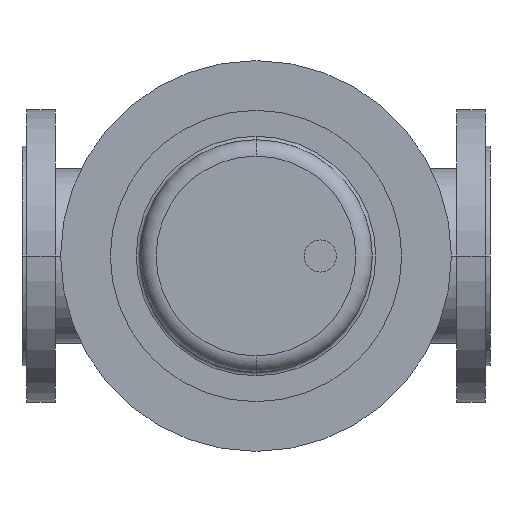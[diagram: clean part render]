
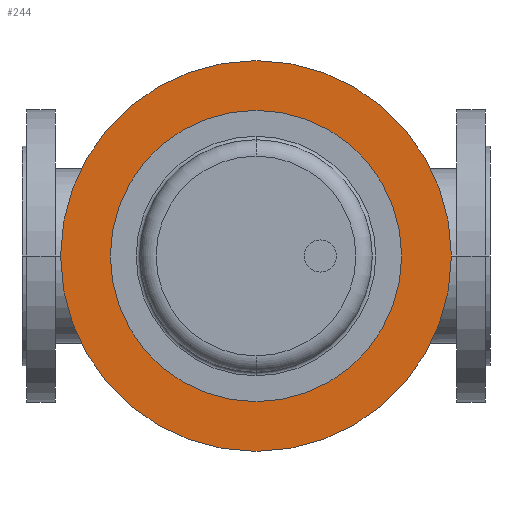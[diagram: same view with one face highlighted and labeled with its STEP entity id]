
A CAD part, front view. The second image highlights one B-rep face of the part: STEP entity #244.
In plain terms, the highlighted planar face has unit normal (0, -1, 0).
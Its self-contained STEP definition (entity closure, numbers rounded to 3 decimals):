
#244 = ADVANCED_FACE( '', ( #574, #575 ), #576, .T. );
#574 = FACE_OUTER_BOUND( '', #999, .T. );
#575 = FACE_BOUND( '', #1000, .T. );
#576 = PLANE( '', #1001 );
#999 = EDGE_LOOP( '', ( #2121, #2122 ) );
#1000 = EDGE_LOOP( '', ( #2123, #2124 ) );
#1001 = AXIS2_PLACEMENT_3D( '', #2125, #2126, #2127 );
#2121 = ORIENTED_EDGE( '', *, *, #2764, .F. );
#2122 = ORIENTED_EDGE( '', *, *, #2992, .F. );
#2123 = ORIENTED_EDGE( '', *, *, #2770, .T. );
#2124 = ORIENTED_EDGE( '', *, *, #2991, .T. );
#2125 = CARTESIAN_POINT( '', ( 303.5, -464.62, 0. ) );
#2126 = DIRECTION( '', ( 0., -1., 0. ) );
#2127 = DIRECTION( '', ( -1., 0., 0. ) );
#2764 = EDGE_CURVE( '', #3326, #3329, #3330, .T. );
#2770 = EDGE_CURVE( '', #3335, #3339, #3341, .T. );
#2991 = EDGE_CURVE( '', #3339, #3335, #3697, .T. );
#2992 = EDGE_CURVE( '', #3329, #3326, #3698, .T. );
#3326 = VERTEX_POINT( '', #4402 );
#3329 = VERTEX_POINT( '', #4406 );
#3330 = CIRCLE( '', #4407, 167. );
#3335 = VERTEX_POINT( '', #4413 );
#3339 = VERTEX_POINT( '', #4418 );
#3341 = CIRCLE( '', #4421, 40. );
#3697 = CIRCLE( '', #4839, 40. );
#3698 = CIRCLE( '', #4840, 167. );
#4402 = CARTESIAN_POINT( '', ( 367., -464.62, 0. ) );
#4406 = CARTESIAN_POINT( '', ( 33., -464.62, 0. ) );
#4407 = AXIS2_PLACEMENT_3D( '', #5633, #5634, #5635 );
#4413 = CARTESIAN_POINT( '', ( 240., -464.62, 0. ) );
#4418 = CARTESIAN_POINT( '', ( 160., -464.62, 0. ) );
#4421 = AXIS2_PLACEMENT_3D( '', #5645, #5646, #5647 );
#4839 = AXIS2_PLACEMENT_3D( '', #6184, #6185, #6186 );
#4840 = AXIS2_PLACEMENT_3D( '', #6187, #6188, #6189 );
#5633 = CARTESIAN_POINT( '', ( 200., -464.62, 0. ) );
#5634 = DIRECTION( '', ( 0., 1., 0. ) );
#5635 = DIRECTION( '', ( 1., 0., 0. ) );
#5645 = CARTESIAN_POINT( '', ( 200., -464.62, 0. ) );
#5646 = DIRECTION( '', ( 0., 1., 0. ) );
#5647 = DIRECTION( '', ( 1., 0., 0. ) );
#6184 = CARTESIAN_POINT( '', ( 200., -464.62, 0. ) );
#6185 = DIRECTION( '', ( 0., 1., 0. ) );
#6186 = DIRECTION( '', ( 1., 0., 0. ) );
#6187 = CARTESIAN_POINT( '', ( 200., -464.62, 0. ) );
#6188 = DIRECTION( '', ( 0., 1., 0. ) );
#6189 = DIRECTION( '', ( 1., 0., 0. ) );
